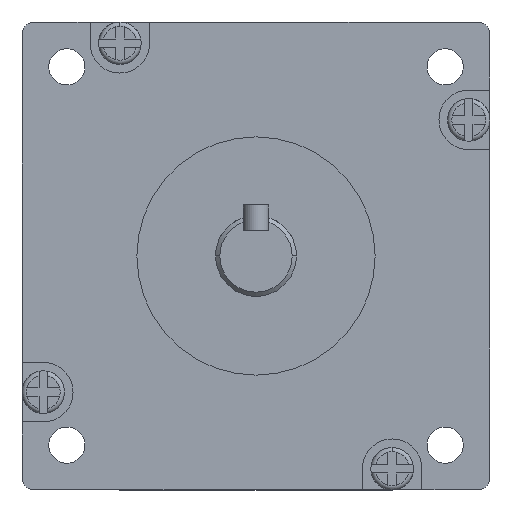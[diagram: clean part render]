
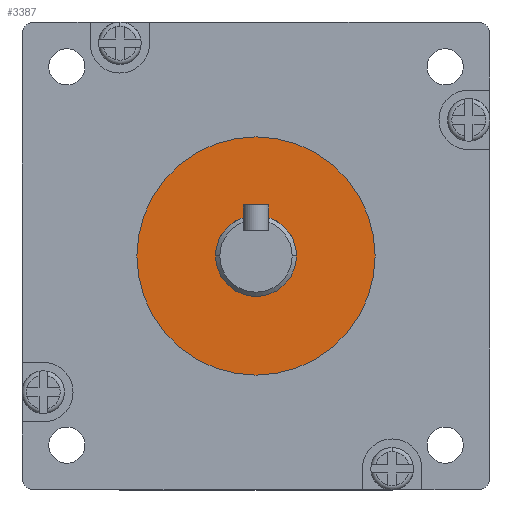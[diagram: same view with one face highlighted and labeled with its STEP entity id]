
A CAD part, left-side view. The second image highlights one B-rep face of the part: STEP entity #3387.
In plain terms, the highlighted planar face has unit normal (-1, 0, 0) as drawn and (0, 0, -1) by its records, which use the part's own axes.
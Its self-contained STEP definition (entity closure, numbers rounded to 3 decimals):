
#441 = AXIS2_PLACEMENT_3D ( 'NONE', #499, #2419, #605 ) ;
#499 = CARTESIAN_POINT ( 'NONE',  ( 0., 0., -2. ) ) ;
#605 = DIRECTION ( 'NONE',  ( -1., 0., 0. ) ) ;
#910 = DIRECTION ( 'NONE',  ( -1., 0., 0. ) ) ;
#926 = DIRECTION ( 'NONE',  ( 0., 0., -1. ) ) ;
#961 = PLANE ( 'NONE',  #1754 ) ;
#1005 = AXIS2_PLACEMENT_3D ( 'NONE', #7091, #7060, #7049 ) ;
#1162 = CARTESIAN_POINT ( 'NONE',  ( 0., 0., -2. ) ) ;
#1754 = AXIS2_PLACEMENT_3D ( 'NONE', #1162, #926, #910 ) ;
#2018 = VERTEX_POINT ( 'NONE', #4083 ) ;
#2419 = DIRECTION ( 'NONE',  ( 0., 0., -1. ) ) ;
#2571 = EDGE_CURVE ( 'NONE', #7496, #4782, #4960, .T. ) ;
#2756 = ORIENTED_EDGE ( 'NONE', *, *, #5382, .T. ) ;
#2805 = AXIS2_PLACEMENT_3D ( 'NONE', #6615, #6587, #6560 ) ;
#3029 = VERTEX_POINT ( 'NONE', #3558 ) ;
#3286 = ORIENTED_EDGE ( 'NONE', *, *, #2571, .T. ) ;
#3387 = ADVANCED_FACE ( 'NONE', ( #4234, #5012 ), #961, .T. ) ;
#3493 = EDGE_LOOP ( 'NONE', ( #3286, #2756 ) ) ;
#3558 = CARTESIAN_POINT ( 'NONE',  ( -28., 0., -2. ) ) ;
#3634 = DIRECTION ( 'NONE',  ( -1., 0., 0. ) ) ;
#3645 = DIRECTION ( 'NONE',  ( 0., 0., 1. ) ) ;
#3656 = CARTESIAN_POINT ( 'NONE',  ( 0., 0., -2. ) ) ;
#3717 = EDGE_CURVE ( 'NONE', #3029, #2018, #5329, .T. ) ;
#3808 = EDGE_CURVE ( 'NONE', #2018, #3029, #3870, .T. ) ;
#3870 = CIRCLE ( 'NONE', #2805, 28. ) ;
#4083 = CARTESIAN_POINT ( 'NONE',  ( 28., 0., -2. ) ) ;
#4234 = FACE_BOUND ( 'NONE', #3493, .T. ) ;
#4329 = AXIS2_PLACEMENT_3D ( 'NONE', #3656, #3645, #3634 ) ;
#4782 = VERTEX_POINT ( 'NONE', #7530 ) ;
#4960 = CIRCLE ( 'NONE', #1005, 9.5 ) ;
#5012 = FACE_OUTER_BOUND ( 'NONE', #6764, .T. ) ;
#5125 = CARTESIAN_POINT ( 'NONE',  ( 9.5, 0., -2. ) ) ;
#5329 = CIRCLE ( 'NONE', #441, 28. ) ;
#5382 = EDGE_CURVE ( 'NONE', #4782, #7496, #5516, .T. ) ;
#5516 = CIRCLE ( 'NONE', #4329, 9.5 ) ;
#5980 = ORIENTED_EDGE ( 'NONE', *, *, #3717, .T. ) ;
#6560 = DIRECTION ( 'NONE',  ( -1., 0., 0. ) ) ;
#6587 = DIRECTION ( 'NONE',  ( 0., 0., -1. ) ) ;
#6615 = CARTESIAN_POINT ( 'NONE',  ( 0., 0., -2. ) ) ;
#6764 = EDGE_LOOP ( 'NONE', ( #7428, #5980 ) ) ;
#7049 = DIRECTION ( 'NONE',  ( -1., 0., 0. ) ) ;
#7060 = DIRECTION ( 'NONE',  ( 0., 0., 1. ) ) ;
#7091 = CARTESIAN_POINT ( 'NONE',  ( 0., 0., -2. ) ) ;
#7428 = ORIENTED_EDGE ( 'NONE', *, *, #3808, .T. ) ;
#7496 = VERTEX_POINT ( 'NONE', #5125 ) ;
#7530 = CARTESIAN_POINT ( 'NONE',  ( -9.5, 0., -2. ) ) ;
